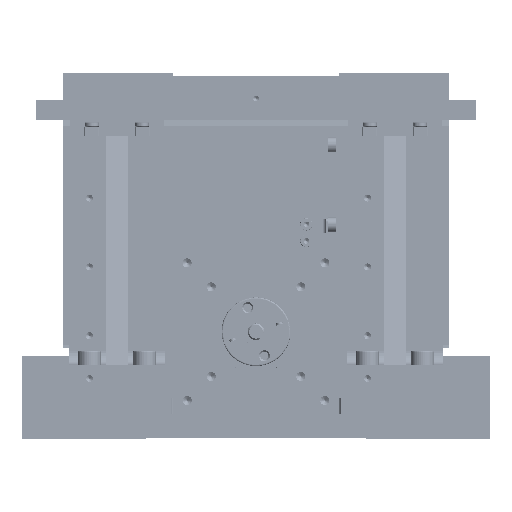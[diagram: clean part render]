
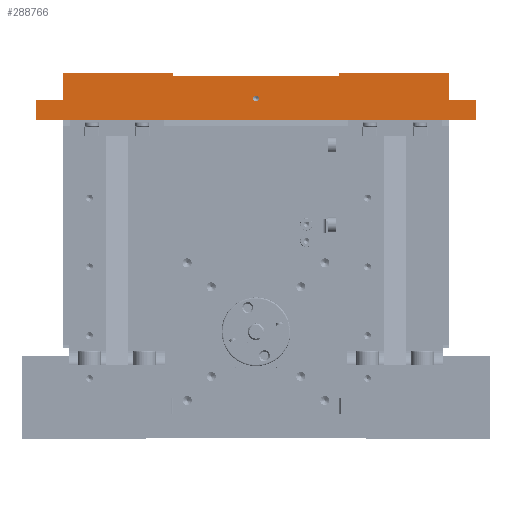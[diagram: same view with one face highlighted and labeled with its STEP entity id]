
A CAD part, front view. The second image highlights one B-rep face of the part: STEP entity #288766.
In plain terms, the highlighted planar face has unit normal (0, -1, 0).
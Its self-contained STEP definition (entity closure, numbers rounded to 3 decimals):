
#5891 = CARTESIAN_POINT ( 'NONE',  ( 22.303, -227.922, 492. ) ) ;
#10544 = ORIENTED_EDGE ( 'NONE', *, *, #272330, .F. ) ;
#10993 = LINE ( 'NONE', #324584, #20651 ) ;
#12570 = VERTEX_POINT ( 'NONE', #273501 ) ;
#16994 = CARTESIAN_POINT ( 'NONE',  ( 52.303, -227.922, 483.726 ) ) ;
#19829 = CARTESIAN_POINT ( 'NONE',  ( 122.303, -227.922, 493. ) ) ;
#20651 = VECTOR ( 'NONE', #140901, 1000. ) ;
#21002 = VERTEX_POINT ( 'NONE', #320770 ) ;
#24926 = CARTESIAN_POINT ( 'NONE',  ( 122.303, -227.922, 483. ) ) ;
#25675 = CIRCLE ( 'NONE', #250545, 1. ) ;
#27103 = VECTOR ( 'NONE', #292495, 1000. ) ;
#27271 = DIRECTION ( 'NONE',  ( 0., -1., 0. ) ) ;
#35440 = DIRECTION ( 'NONE',  ( 1., 0., 0. ) ) ;
#45623 = DIRECTION ( 'NONE',  ( 0., 0., 1. ) ) ;
#47868 = DIRECTION ( 'NONE',  ( 0., 0., -1. ) ) ;
#49855 = DIRECTION ( 'NONE',  ( -1., 0., 0. ) ) ;
#54341 = EDGE_CURVE ( 'NONE', #12570, #243675, #337075, .T. ) ;
#61369 = DIRECTION ( 'NONE',  ( 0., 0., 1. ) ) ;
#62954 = AXIS2_PLACEMENT_3D ( 'NONE', #16994, #231408, #47868 ) ;
#73415 = LINE ( 'NONE', #183382, #380226 ) ;
#78509 = VERTEX_POINT ( 'NONE', #361574 ) ;
#86395 = CARTESIAN_POINT ( 'NONE',  ( 122.303, -227.922, 493. ) ) ;
#92866 = CARTESIAN_POINT ( 'NONE',  ( -27.697, -227.922, 476. ) ) ;
#93025 = CARTESIAN_POINT ( 'NONE',  ( 52.303, -227.922, 484.726 ) ) ;
#101867 = VERTEX_POINT ( 'NONE', #116677 ) ;
#107824 = CARTESIAN_POINT ( 'NONE',  ( 22.303, -227.922, 493. ) ) ;
#113336 = VERTEX_POINT ( 'NONE', #181010 ) ;
#113771 = ORIENTED_EDGE ( 'NONE', *, *, #304829, .T. ) ;
#116677 = CARTESIAN_POINT ( 'NONE',  ( 82.303, -227.922, 492. ) ) ;
#118042 = CIRCLE ( 'NONE', #62954, 1. ) ;
#118086 = EDGE_CURVE ( 'NONE', #146702, #370044, #73415, .T. ) ;
#122651 = EDGE_CURVE ( 'NONE', #122940, #213486, #118042, .T. ) ;
#122940 = VERTEX_POINT ( 'NONE', #93025 ) ;
#132251 = EDGE_CURVE ( 'NONE', #371823, #328701, #144538, .T. ) ;
#136341 = ORIENTED_EDGE ( 'NONE', *, *, #319614, .T. ) ;
#139433 = ORIENTED_EDGE ( 'NONE', *, *, #303404, .F. ) ;
#140404 = ORIENTED_EDGE ( 'NONE', *, *, #210656, .F. ) ;
#140901 = DIRECTION ( 'NONE',  ( 1., 0., 0. ) ) ;
#142958 = DIRECTION ( 'NONE',  ( 0., 0., -1. ) ) ;
#144538 = LINE ( 'NONE', #369704, #379549 ) ;
#146702 = VERTEX_POINT ( 'NONE', #150406 ) ;
#150406 = CARTESIAN_POINT ( 'NONE',  ( 22.303, -227.922, 492. ) ) ;
#154023 = VECTOR ( 'NONE', #49855, 1000. ) ;
#167947 = ORIENTED_EDGE ( 'NONE', *, *, #230610, .T. ) ;
#180522 = ORIENTED_EDGE ( 'NONE', *, *, #379189, .F. ) ;
#181010 = CARTESIAN_POINT ( 'NONE',  ( 132.303, -227.922, 476. ) ) ;
#183175 = ORIENTED_EDGE ( 'NONE', *, *, #54341, .T. ) ;
#183225 = EDGE_LOOP ( 'NONE', ( #139433, #237203, #136341, #167947, #113771, #183175, #10544, #280418, #140404, #300440, #289647, #180522 ) ) ;
#183382 = CARTESIAN_POINT ( 'NONE',  ( 22.303, -227.922, 492. ) ) ;
#186186 = EDGE_CURVE ( 'NONE', #78509, #302285, #226113, .T. ) ;
#194167 = DIRECTION ( 'NONE',  ( 0., 0., 1. ) ) ;
#210656 = EDGE_CURVE ( 'NONE', #101867, #371823, #283096, .T. ) ;
#210801 = CARTESIAN_POINT ( 'NONE',  ( 52.303, -227.922, 483.726 ) ) ;
#210859 = LINE ( 'NONE', #5891, #220533 ) ;
#211963 = ORIENTED_EDGE ( 'NONE', *, *, #264260, .F. ) ;
#213486 = VERTEX_POINT ( 'NONE', #261532 ) ;
#213936 = VERTEX_POINT ( 'NONE', #316059 ) ;
#214073 = CARTESIAN_POINT ( 'NONE',  ( -17.697, -227.922, 493. ) ) ;
#215579 = DIRECTION ( 'NONE',  ( 0., 0., 1. ) ) ;
#220533 = VECTOR ( 'NONE', #35440, 1000. ) ;
#222416 = FACE_BOUND ( 'NONE', #234498, .T. ) ;
#225468 = VECTOR ( 'NONE', #142958, 1000. ) ;
#226113 = LINE ( 'NONE', #233384, #154023 ) ;
#226504 = ORIENTED_EDGE ( 'NONE', *, *, #122651, .F. ) ;
#230610 = EDGE_CURVE ( 'NONE', #21002, #113336, #303653, .T. ) ;
#231408 = DIRECTION ( 'NONE',  ( 0., -1., 0. ) ) ;
#233384 = CARTESIAN_POINT ( 'NONE',  ( -17.697, -227.922, 483. ) ) ;
#234498 = EDGE_LOOP ( 'NONE', ( #211963, #226504 ) ) ;
#237203 = ORIENTED_EDGE ( 'NONE', *, *, #186186, .T. ) ;
#238863 = CARTESIAN_POINT ( 'NONE',  ( 82.303, -227.922, 493. ) ) ;
#240328 = CARTESIAN_POINT ( 'NONE',  ( 82.303, -227.922, 492. ) ) ;
#241689 = DIRECTION ( 'NONE',  ( 0., 0., -1. ) ) ;
#243675 = VERTEX_POINT ( 'NONE', #24926 ) ;
#248382 = LINE ( 'NONE', #214073, #320234 ) ;
#250545 = AXIS2_PLACEMENT_3D ( 'NONE', #210801, #27271, #241689 ) ;
#254600 = CARTESIAN_POINT ( 'NONE',  ( -27.697, -227.922, 493. ) ) ;
#255616 = VECTOR ( 'NONE', #337403, 1000. ) ;
#259961 = CARTESIAN_POINT ( 'NONE',  ( 132.303, -227.922, 476. ) ) ;
#261532 = CARTESIAN_POINT ( 'NONE',  ( 52.303, -227.922, 482.726 ) ) ;
#264260 = EDGE_CURVE ( 'NONE', #213486, #122940, #25675, .T. ) ;
#272330 = EDGE_CURVE ( 'NONE', #328701, #243675, #306920, .T. ) ;
#273482 = VECTOR ( 'NONE', #301878, 1000. ) ;
#273501 = CARTESIAN_POINT ( 'NONE',  ( 132.303, -227.922, 483. ) ) ;
#280418 = ORIENTED_EDGE ( 'NONE', *, *, #132251, .F. ) ;
#283096 = LINE ( 'NONE', #240328, #273482 ) ;
#288766 = ADVANCED_FACE ( 'NONE', ( #222416, #394906 ), #346988, .F. ) ;
#289647 = ORIENTED_EDGE ( 'NONE', *, *, #118086, .T. ) ;
#291128 = EDGE_CURVE ( 'NONE', #146702, #101867, #210859, .T. ) ;
#292495 = DIRECTION ( 'NONE',  ( 0., 0., -1. ) ) ;
#294032 = VECTOR ( 'NONE', #338108, 1000. ) ;
#300440 = ORIENTED_EDGE ( 'NONE', *, *, #291128, .F. ) ;
#301878 = DIRECTION ( 'NONE',  ( 0., 0., 1. ) ) ;
#302285 = VERTEX_POINT ( 'NONE', #344108 ) ;
#303404 = EDGE_CURVE ( 'NONE', #78509, #213936, #248382, .T. ) ;
#303653 = LINE ( 'NONE', #92866, #294032 ) ;
#304829 = EDGE_CURVE ( 'NONE', #113336, #12570, #334099, .T. ) ;
#306920 = LINE ( 'NONE', #19829, #225468 ) ;
#309471 = DIRECTION ( 'NONE',  ( 1., 0., 0. ) ) ;
#312246 = AXIS2_PLACEMENT_3D ( 'NONE', #254600, #377802, #194167 ) ;
#316059 = CARTESIAN_POINT ( 'NONE',  ( -17.697, -227.922, 493. ) ) ;
#319614 = EDGE_CURVE ( 'NONE', #302285, #21002, #353114, .T. ) ;
#320234 = VECTOR ( 'NONE', #61369, 1000. ) ;
#320770 = CARTESIAN_POINT ( 'NONE',  ( -27.697, -227.922, 476. ) ) ;
#324551 = VECTOR ( 'NONE', #45623, 1000. ) ;
#324584 = CARTESIAN_POINT ( 'NONE',  ( -27.697, -227.922, 493. ) ) ;
#328701 = VERTEX_POINT ( 'NONE', #86395 ) ;
#334099 = LINE ( 'NONE', #259961, #324551 ) ;
#337075 = LINE ( 'NONE', #397663, #255616 ) ;
#337403 = DIRECTION ( 'NONE',  ( -1., 0., 0. ) ) ;
#338108 = DIRECTION ( 'NONE',  ( 1., 0., 0. ) ) ;
#344108 = CARTESIAN_POINT ( 'NONE',  ( -27.697, -227.922, 483. ) ) ;
#346988 = PLANE ( 'NONE',  #312246 ) ;
#353114 = LINE ( 'NONE', #384908, #27103 ) ;
#361574 = CARTESIAN_POINT ( 'NONE',  ( -17.697, -227.922, 483. ) ) ;
#369704 = CARTESIAN_POINT ( 'NONE',  ( -27.697, -227.922, 493. ) ) ;
#370044 = VERTEX_POINT ( 'NONE', #107824 ) ;
#371823 = VERTEX_POINT ( 'NONE', #238863 ) ;
#377802 = DIRECTION ( 'NONE',  ( 0., 1., 0. ) ) ;
#379189 = EDGE_CURVE ( 'NONE', #213936, #370044, #10993, .T. ) ;
#379549 = VECTOR ( 'NONE', #309471, 1000. ) ;
#380226 = VECTOR ( 'NONE', #215579, 1000. ) ;
#384908 = CARTESIAN_POINT ( 'NONE',  ( -27.697, -227.922, 476. ) ) ;
#394906 = FACE_OUTER_BOUND ( 'NONE', #183225, .T. ) ;
#397663 = CARTESIAN_POINT ( 'NONE',  ( 122.303, -227.922, 483. ) ) ;
